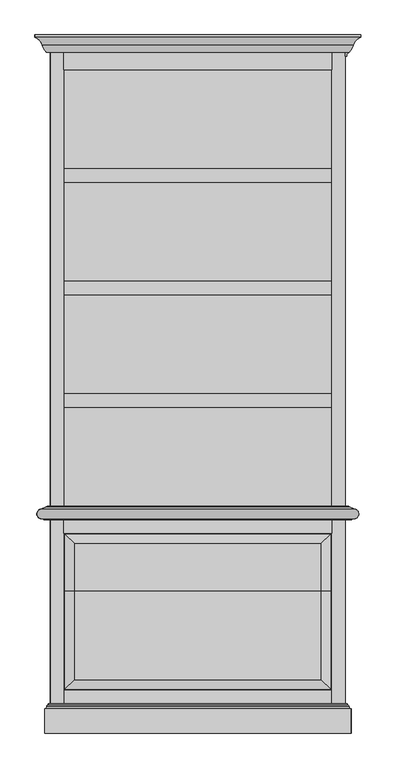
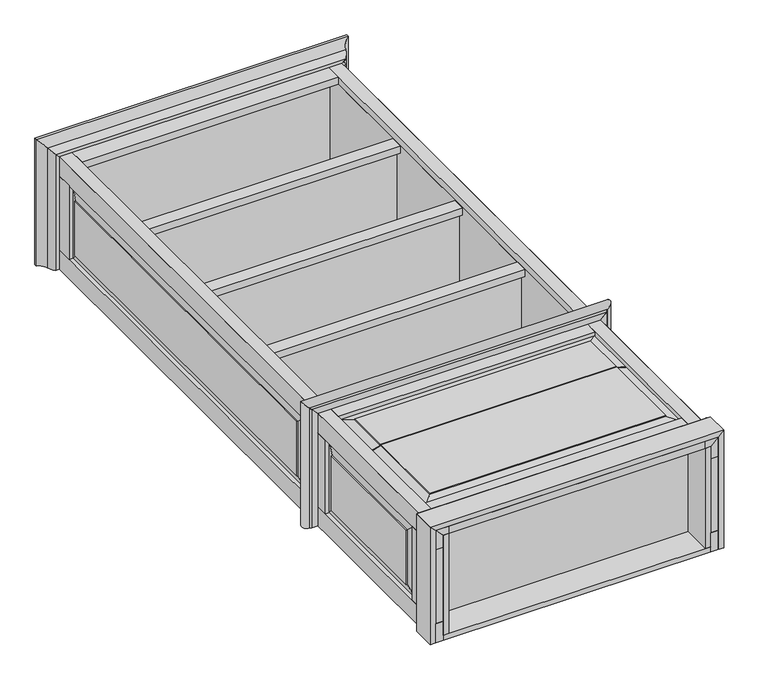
"""IFC4 building model written with IfcOpenShell, lengths in millimetres: proxy geometry, CAMBRIDGE^STORAGE 2_2 DRAWERS 3 SHELVES-PARTS SOLID."""

from ifc_helpers import new_model, si_unit, frame, origin, origin_with_axes, place, context, project, spatial, polyline, circle_curve, ellipse_curve, outline, extrude, faceted_brep, source, transform, mapped, element, save
from ifc_brep_helpers import plane_surface, cylinder_surface, revolved_surface, advanced_brep


def generic_models_470a9173(model_context):
    return source(origin(), model_context, "Body", "SolidModel", [
        faceted_brep([(22.225, 466.725, 387.35), (892.175, 466.725, 387.35), (892.175, 466.725, 394.7176131), (860.425, 466.725, 403.225), (860.425, 466.725, 406.4), (53.975, 466.725, 406.4), (53.975, 466.725, 403.225), (22.225, 466.725, 394.7176131), (22.225, 650.875, 387.35), (892.175, 650.875, 387.35), (892.175, 650.875, 394.7176131), (860.425, 619.125, 403.225), (860.425, 619.125, 406.4), (53.975, 619.125, 406.4), (53.975, 619.125, 403.225), (22.225, 650.875, 394.7176131)], [[[0, 1, 2, 3, 4, 5, 6, 7]], [[1, 0, 8, 9]], [[2, 1, 9, 10]], [[3, 2, 10, 11]], [[4, 3, 11, 12]], [[5, 4, 12, 13]], [[6, 5, 13, 14]], [[7, 6, 14, 15]], [[0, 7, 15, 8]], [[15, 10, 9, 8]], [[10, 15, 14, 11]], [[11, 14, 13, 12]]]),
        extrude(outline(polyline([(893.7625, 1822.45), (20.6375, 1822.45), (20.6375, 1847.85), (893.7625, 1847.85), (893.7625, 1822.45)])), frame((0.0, 0.0, 19.05), z_axis=(0.0, 0.0, 1.0), x_axis=(1.0, 0.0, 0.0)), (0.0, 0.0, 1.0), 336.55),
        advanced_brep(
        [(965.1440118, 2286.0, 431.7440118), (939.8, 2249.805, 406.4), (-25.4, 2249.805, 406.4), (-50.7440118, 2286.0, 431.7440118), (-38.4061695, 2228.85, 419.4061695), (952.8061695, 2228.85, 419.4061695), (966.5133719, 2252.0938145, 433.1133719), (-52.1133719, 2252.0938145, 433.1133719), (990.6, 2278.0752, 457.2), (-76.2, 2278.0752, 457.2), (939.8, 2228.85, 406.4), (-25.4, 2228.85, 406.4), (-76.2, 2286.0, 457.2), (990.6, 2286.0, 457.2)],
        [
            (0, 1),
            (1, 2),
            (2, 3),
            (3, 0),
            (4, 5),
            (5, 6, ellipse_curve(frame((917.4734, 2265.3498, 384.0734), z_axis=(-0.7071067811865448, 0.0, 0.7071067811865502), x_axis=(-0.7071067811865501, 0.0, -0.7071067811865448)), 71.842049, 50.8)),
            (6, 7),
            (7, 4, ellipse_curve(frame((-3.0734, 2265.3498, 384.0734), z_axis=(0.7071067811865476, 0.0, 0.7071067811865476), x_axis=(-0.7071067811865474, 0.0, 0.7071067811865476)), 71.842049, 50.8)),
            (6, 8, ellipse_curve(frame((1003.2933509, 2242.1518254, 469.8933509), z_axis=(0.7071067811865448, 0.0, -0.7071067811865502), x_axis=(-0.7071067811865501, 0.0, -0.7071067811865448)), 53.8815367, 38.1)),
            (8, 9),
            (9, 7, ellipse_curve(frame((-88.8933509, 2242.1518254, 469.8933509), z_axis=(-0.7071067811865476, 0.0, -0.7071067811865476), x_axis=(-0.7071067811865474, 0.0, 0.7071067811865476)), 53.8815367, 38.1)),
            (1, 10),
            (10, 11),
            (11, 2),
            (11, 4),
            (9, 12),
            (12, 3),
            (10, 5),
            (8, 13),
            (13, 12),
            (0, 13),
        ],
        [
            plane_surface(frame((939.8, 2249.805, 406.4), z_axis=(0.0, 0.5735764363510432, -0.8191520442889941), x_axis=(0.4975428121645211, 0.7105647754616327, 0.497542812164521))),
            cylinder_surface(frame((917.4734, 2265.3498, 384.0734), z_axis=(-1.0, 0.0, 0.0), x_axis=(0.0, 0.0, -1.0)), 50.8),
            revolved_surface(polyline([(-126.99335088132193, 2242.1518254, 431.79335089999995), (1041.393350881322, 2242.1518254, 431.79335089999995)]), (1003.2933509, 2242.1518254, 469.8933509), (-1.0, 0.0, 0.0)),
            plane_surface(frame((939.8, 2241.55, 406.4), z_axis=(0.0, 0.0, -1.0), x_axis=(-1.0, 0.0, 0.0))),
            plane_surface(frame((-25.4, 2241.55, 406.4), z_axis=(-0.7071067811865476, 0.0, -0.7071067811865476), x_axis=(-0.7071067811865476, 0.0, 0.7071067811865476))),
            plane_surface(frame((457.2, 2228.85, 431.8), z_axis=(0.0, -1.0, 0.0), x_axis=(0.0, 0.0, -1.0))),
            plane_surface(frame((-76.2, 2241.55, 457.2), z_axis=(0.0, 0.0, 1.0), x_axis=(1.0, 0.0, 0.0))),
            plane_surface(frame((990.6, 2241.55, 457.2), z_axis=(0.7071067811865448, 0.0, -0.7071067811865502), x_axis=(-0.7071067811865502, 0.0, -0.7071067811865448))),
            plane_surface(frame((457.2, 2286.0, 431.8), z_axis=(0.0, 1.0, 0.0), x_axis=(0.0, 0.0, 1.0))),
        ],
        [
            (0, [[1, 2, 3, 4]]),
            (1, [[5, 6, 7, 8]]),
            (2, [[9, 10, 11, -7]]),
            (3, [[-2, 12, 13, 14]]),
            (4, [[-3, -14, 15, -8, -11, 16, 17]]),
            (5, [[-5, -15, -13, 18]]),
            (6, [[-10, 19, 20, -16]]),
            (7, [[-1, 21, -19, -9, -6, -18, -12]]),
            (8, [[-4, -17, -20, -21]]),
        ],
    ),
        advanced_brep(
        [(-52.8410714, 701.6587803, 433.8410714), (-53.975, 733.3682311, 434.975), (-53.975, 733.3682311, 0.0), (-52.8410714, 701.6587803, 0.0), (-53.975, 734.9557311, 434.975), (-53.975, 734.9557311, 0.0), (-39.1031721, 740.3686338, 420.1031721), (-39.1031721, 740.3686338, 0.0), (-35.9028814, 742.95, 416.9028814), (-35.9028814, 742.95, 0.0), (-46.8882387, 698.5, 427.8882387), (-46.8882387, 698.5, 0.0), (-25.4, 698.5, 406.4), (-25.4, 742.95, 406.4), (-25.4, 742.95, 0.0), (-25.4, 698.5, 0.0)],
        [
            (0, 1, ellipse_curve(frame((-53.975, 717.4932311, 434.975), z_axis=(-0.7071067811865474, 0.0, -0.7071067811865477), x_axis=(0.7071067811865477, 0.0, -0.7071067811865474)), 22.4506403, 15.875)),
            (1, 2),
            (2, 3, circle_curve(frame((-53.975, 717.4932311, 0.0), z_axis=(0.0, 0.0, 1.0), x_axis=(-1.0, 0.0, 0.0)), 15.875)),
            (3, 0),
            (1, 4),
            (4, 5),
            (5, 2),
            (4, 6),
            (6, 7),
            (7, 5),
            (6, 8, ellipse_curve(frame((-41.275, 746.3356819, 422.275), z_axis=(0.7071067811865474, 0.0, 0.7071067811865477), x_axis=(0.7071067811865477, 0.0, -0.7071067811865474)), 8.9802561, 6.35)),
            (8, 9),
            (9, 7, circle_curve(frame((-41.275, 746.3356819, 0.0), z_axis=(0.0, 0.0, -1.0), x_axis=(1.0, 0.0, 0.0)), 6.35)),
            (10, 0, ellipse_curve(frame((-52.3875, 695.325, 433.3875), z_axis=(0.7071067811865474, 0.0, 0.7071067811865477), x_axis=(0.7071067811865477, 0.0, -0.7071067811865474)), 8.9802561, 6.35)),
            (3, 11, circle_curve(frame((-52.3875, 695.325, 0.0), z_axis=(0.0, 0.0, -1.0), x_axis=(1.0, 0.0, 0.0)), 6.35)),
            (11, 10),
            (10, 12),
            (12, 13),
            (13, 8),
            (13, 14),
            (14, 9),
            (12, 15),
            (15, 14),
            (11, 15),
        ],
        [
            cylinder_surface(frame((-53.975, 717.4932311, 434.975), z_axis=(0.0, 0.0, -1.0), x_axis=(-1.0, 0.0, 0.0)), 15.875),
            plane_surface(frame((-53.975, 734.9557311, 434.975), z_axis=(-1.0, 0.0, 0.0), x_axis=(0.0, -1.0, 0.0))),
            plane_surface(frame((-39.1031721, 740.3686338, 420.1031721), z_axis=(-0.34202014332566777, 0.9396926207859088, 0.0), x_axis=(-0.6847910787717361, -0.24924356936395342, 0.6847910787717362))),
            revolved_surface(polyline([(-34.925, 746.3356819, 0.0), (-34.925, 746.3356819, 428.62499998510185)]), (-41.275, 746.3356819, 422.275), (0.0, 0.0, -1.0)),
            revolved_surface(polyline([(-46.0375, 695.325, 0.0), (-46.0375, 695.325, 439.73749998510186)]), (-52.3875, 695.325, 433.3875), (0.0, 0.0, -1.0)),
            plane_surface(frame((-47.625, 720.725, 428.625), z_axis=(0.7071067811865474, 0.0, 0.7071067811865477), x_axis=(-0.7071067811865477, 0.0, 0.7071067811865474))),
            plane_surface(frame((-25.4, 742.95, 0.0), z_axis=(0.0, 1.0, 0.0), x_axis=(-1.0, 0.0, 0.0))),
            plane_surface(frame((-25.4, 698.5, 0.0), z_axis=(1.0, 0.0, 0.0), x_axis=(0.0, 1.0, 0.0))),
            plane_surface(frame((-69.85, 698.5, 0.0), z_axis=(0.0, -1.0, 0.0), x_axis=(1.0, 0.0, 0.0))),
            plane_surface(frame((-47.625, 720.725, 0.0), z_axis=(0.0, 0.0, -1.0), x_axis=(-1.0, 0.0, 0.0))),
        ],
        [
            (0, [[1, 2, 3, 4]]),
            (1, [[5, 6, 7, -2]]),
            (2, [[8, 9, 10, -6]]),
            (3, [[11, 12, 13, -9]]),
            (4, [[14, -4, 15, 16]]),
            (5, [[-11, -8, -5, -1, -14, 17, 18, 19]]),
            (6, [[-12, -19, 20, 21]]),
            (7, [[-18, 22, 23, -20]]),
            (8, [[-16, 24, -22, -17]]),
            (9, [[-13, -21, -23, -24, -15, -3, -7, -10]]),
        ],
    ),
        advanced_brep(
        [(958.85, 79.375, 425.45), (952.5, 85.725, 419.1), (-38.1, 85.725, 419.1), (-44.45, 79.375, 425.45), (946.15, 92.075, 412.75), (-31.75, 92.075, 412.75), (946.15, 95.25, 412.75), (-31.75, 95.25, 412.75), (939.8, 95.25, 406.4), (-25.4, 95.25, 406.4), (958.85, 0.0, 425.45), (939.8, 0.0, 406.4), (-44.45, 0.0, 425.45), (-25.4, 0.0, 406.4)],
        [
            (0, 1, ellipse_curve(frame((958.85, 85.725, 425.45), z_axis=(0.7071067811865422, 0.0, -0.7071067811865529), x_axis=(-0.7071067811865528, 0.0, -0.7071067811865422)), 8.9802561, 6.35)),
            (1, 2),
            (2, 3, ellipse_curve(frame((-44.45, 85.725, 425.45), z_axis=(-0.7071067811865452, 0.0, -0.7071067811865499), x_axis=(-0.7071067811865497, 0.0, 0.7071067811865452)), 8.9802561, 6.35)),
            (3, 0),
            (1, 4, ellipse_curve(frame((946.15, 85.725, 412.75), z_axis=(-0.7071067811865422, 0.0, 0.7071067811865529), x_axis=(-0.7071067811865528, 0.0, -0.7071067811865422)), 8.9802561, 6.35)),
            (4, 5),
            (5, 2, ellipse_curve(frame((-31.75, 85.725, 412.75), z_axis=(0.7071067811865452, 0.0, 0.7071067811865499), x_axis=(-0.7071067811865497, 0.0, 0.7071067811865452)), 8.9802561, 6.35)),
            (4, 6),
            (6, 7),
            (7, 5),
            (6, 8),
            (8, 9),
            (9, 7),
            (0, 10),
            (10, 11),
            (11, 8),
            (3, 12),
            (12, 10),
            (9, 13),
            (13, 12),
            (11, 13),
        ],
        [
            revolved_surface(polyline([(-50.79999998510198, 85.725, 431.8), (965.199999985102, 85.725, 431.8)]), (958.85, 85.725, 425.45), (-1.0, 0.0, 0.0)),
            cylinder_surface(frame((946.15, 85.725, 412.75), z_axis=(-1.0, 0.0, 0.0), x_axis=(0.0, 0.0, 1.0)), 6.35),
            plane_surface(frame((946.15, 95.25, 412.75), z_axis=(0.0, 0.0, 1.0), x_axis=(0.0, -1.0, 0.0))),
            plane_surface(frame((457.2, 95.25, 415.925), z_axis=(0.0, 1.0, 0.0), x_axis=(0.0, 0.0, 1.0))),
            plane_surface(frame((958.85, 0.0, 425.45), z_axis=(0.7071067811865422, 0.0, -0.7071067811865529), x_axis=(-0.7071067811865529, 0.0, -0.7071067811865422))),
            plane_surface(frame((-44.45, 0.0, 425.45), z_axis=(0.0, 0.0, 1.0), x_axis=(1.0, 0.0, 0.0))),
            plane_surface(frame((-25.4, 0.0, 406.4), z_axis=(-0.7071067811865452, 0.0, -0.7071067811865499), x_axis=(-0.7071067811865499, 0.0, 0.7071067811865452))),
            plane_surface(frame((939.8, 0.0, 406.4), z_axis=(0.0, 0.0, -1.0), x_axis=(-1.0, 0.0, 0.0))),
            plane_surface(frame((457.2, 0.0, 415.925), z_axis=(0.0, -1.0, 0.0), x_axis=(0.0, 0.0, -1.0))),
        ],
        [
            (0, [[1, 2, 3, 4]]),
            (1, [[5, 6, 7, -2]]),
            (2, [[8, 9, 10, -6]]),
            (3, [[-9, 11, 12, 13]]),
            (4, [[-8, -5, -1, 14, 15, 16, -11]]),
            (5, [[-4, 17, 18, -14]]),
            (6, [[-10, -13, 19, 20, -17, -3, -7]]),
            (7, [[21, -19, -12, -16]]),
            (8, [[-15, -18, -20, -21]]),
        ],
    ),
        extrude(outline(polyline([(893.7625, 1803.4), (20.6375, 1803.4), (20.6375, 1847.85), (893.7625, 1847.85), (893.7625, 1803.4)])), frame((0.0, 0.0, 355.6), z_axis=(0.0, 0.0, 1.0), x_axis=(1.0, 0.0, 0.0)), (0.0, 0.0, 1.0), 25.4),
        advanced_brep(
        [(958.85, 79.375, 0.0), (952.5, 85.725, 0.0), (952.5, 85.725, 419.1), (958.85, 79.375, 425.45), (946.15, 92.075, 0.0), (946.15, 92.075, 412.75), (946.15, 95.25, 0.0), (946.15, 95.25, 412.75), (939.8, 95.25, 406.4), (939.8, 0.0, 406.4), (958.85, 0.0, 425.45), (939.8, 95.25, 0.0), (939.8, 0.0, 0.0), (958.85, 0.0, 0.0)],
        [
            (0, 1, circle_curve(frame((958.85, 85.725, 0.0), z_axis=(0.0, 0.0, -1.0), x_axis=(0.0, -1.0, 0.0)), 6.35)),
            (1, 2),
            (2, 3, ellipse_curve(frame((958.85, 85.725, 425.45), z_axis=(-0.7071067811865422, 0.0, 0.7071067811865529), x_axis=(0.7071067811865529, 0.0, 0.7071067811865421)), 8.9802561, 6.35)),
            (3, 0),
            (1, 4, circle_curve(frame((946.15, 85.725, 0.0), z_axis=(0.0, 0.0, 1.0), x_axis=(0.0, -1.0, 0.0)), 6.35)),
            (4, 5),
            (5, 2, ellipse_curve(frame((946.15, 85.725, 412.75), z_axis=(0.7071067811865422, 0.0, -0.7071067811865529), x_axis=(0.7071067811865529, 0.0, 0.7071067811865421)), 8.9802561, 6.35)),
            (4, 6),
            (6, 7),
            (7, 5),
            (7, 8),
            (8, 9),
            (9, 10),
            (10, 3),
            (6, 11),
            (11, 8),
            (12, 9),
            (11, 12),
            (0, 13),
            (13, 12),
            (10, 13),
        ],
        [
            revolved_surface(polyline([(958.85, 79.375, 431.7999999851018), (958.85, 79.375, 0.0)]), (958.85, 85.725, 0.0), (0.0, 0.0, 1.0)),
            cylinder_surface(frame((946.15, 85.725, 0.0), z_axis=(0.0, 0.0, 1.0), x_axis=(0.0, -1.0, 0.0)), 6.35),
            plane_surface(frame((946.15, 95.25, 0.0), z_axis=(1.0, 0.0, 0.0), x_axis=(0.0, -1.0, 0.0))),
            plane_surface(frame((939.8, 0.0, 406.4), z_axis=(-0.7071067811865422, 0.0, 0.7071067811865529), x_axis=(0.7071067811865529, 0.0, 0.7071067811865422))),
            plane_surface(frame((949.325, 95.25, 212.725), z_axis=(0.0, 1.0, 0.0), x_axis=(0.0, 0.0, 1.0))),
            plane_surface(frame((939.8, 0.0, 0.0), z_axis=(-1.0, 0.0, 0.0), x_axis=(0.0, 0.0, 1.0))),
            plane_surface(frame((958.85, 0.0, 0.0), z_axis=(0.0, 0.0, -1.0), x_axis=(-1.0, 0.0, 0.0))),
            plane_surface(frame((958.85, 0.0, 425.45), z_axis=(1.0, 0.0, 0.0), x_axis=(0.0, 0.0, -1.0))),
            plane_surface(frame((949.325, 0.0, 212.725), z_axis=(0.0, -1.0, 0.0), x_axis=(0.0, 0.0, -1.0))),
        ],
        [
            (0, [[1, 2, 3, 4]]),
            (1, [[5, 6, 7, -2]]),
            (2, [[8, 9, 10, -6]]),
            (3, [[-3, -7, -10, 11, 12, 13, 14]]),
            (4, [[-9, 15, 16, -11]]),
            (5, [[17, -12, -16, 18]]),
            (6, [[-1, 19, 20, -18, -15, -8, -5]]),
            (7, [[-4, -14, 21, -19]]),
            (8, [[-21, -13, -17, -20]]),
        ],
    ),
        extrude(outline(polyline([(895.35, 742.95), (895.35, 711.2), (19.05, 711.2), (19.05, 742.95), (895.35, 742.95)])), frame((0.0, 0.0, 19.05), z_axis=(0.0, 0.0, 1.0), x_axis=(1.0, 0.0, 0.0)), (0.0, 0.0, 1.0), 387.35),
        extrude(outline(polyline([(0.0, 2241.55), (0.0, 2171.7), (-25.4, 2171.7), (-25.4, 2241.55), (0.0, 2241.55)])), frame((0.0, 0.0, 69.85), z_axis=(0.0, 0.0, 1.0), x_axis=(1.0, 0.0, 0.0)), (0.0, 0.0, 1.0), 266.7),
        extrude(outline(polyline([(893.7625, 1435.1), (20.6375, 1435.1), (20.6375, 1479.55), (893.7625, 1479.55), (893.7625, 1435.1)])), frame((0.0, 0.0, 355.6), z_axis=(0.0, 0.0, 1.0), x_axis=(1.0, 0.0, 0.0)), (0.0, 0.0, 1.0), 25.4),
        extrude(outline(polyline([(914.4, 2171.7), (914.4, 2241.55), (939.8, 2241.55), (939.8, 2171.7), (914.4, 2171.7)])), frame((0.0, 0.0, 69.85), z_axis=(0.0, 0.0, 1.0), x_axis=(1.0, 0.0, 0.0)), (0.0, 0.0, 1.0), 266.7),
        extrude(outline(polyline([(914.4, 0.0), (914.4, 2241.55), (939.8, 2241.55), (939.8, 0.0), (914.4, 0.0)])), origin_with_axes(), (0.0, 0.0, 1.0), 69.85),
        advanced_brep(
        [(965.1440118, 2286.0, 0.0), (939.8, 2249.805, 0.0), (939.8, 2249.805, 406.4), (965.1440118, 2286.0, 431.7440118), (945.3626, 2216.15, 0.0), (945.3626, 2222.8900246, 0.0), (945.3626, 2222.8900246, 411.9626), (945.3626, 2216.15, 411.9626), (966.5133719, 2252.0938145, 0.0), (966.5133719, 2252.0938145, 433.1133719), (990.6, 2278.0752, 0.0), (990.6, 2278.0752, 457.2), (939.8, 2216.15, 0.0), (939.8, 2216.15, 406.4), (990.6, 2286.0, 457.2), (990.6, 2286.0, 0.0)],
        [
            (0, 1),
            (1, 2),
            (2, 3),
            (3, 0),
            (4, 5),
            (5, 6),
            (6, 7),
            (7, 4),
            (5, 8, circle_curve(frame((917.4734, 2265.3498, 0.0), z_axis=(0.0, 0.0, 1.0), x_axis=(-0.9653537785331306, 0.26094459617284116, 0.0)), 50.8)),
            (8, 9),
            (9, 6, ellipse_curve(frame((917.4734, 2265.3498, 384.0734), z_axis=(0.7071067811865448, 0.0, -0.7071067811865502), x_axis=(0.7071067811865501, 0.0, 0.7071067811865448)), 71.842049, 50.8)),
            (8, 10, circle_curve(frame((1003.2933509, 2242.1518254, 0.0), z_axis=(0.0, 0.0, -1.0), x_axis=(-0.9653537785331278, 0.2609445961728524, 0.0)), 38.1)),
            (10, 11),
            (11, 9, ellipse_curve(frame((1003.2933509, 2242.1518254, 469.8933509), z_axis=(-0.7071067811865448, 0.0, 0.7071067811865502), x_axis=(0.7071067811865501, 0.0, 0.7071067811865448)), 53.8815367, 38.1)),
            (1, 12),
            (12, 13),
            (13, 2),
            (13, 7),
            (11, 14),
            (14, 3),
            (12, 4),
            (0, 15),
            (15, 10),
            (15, 14),
        ],
        [
            plane_surface(frame((939.8, 2249.805, 0.0), z_axis=(-0.819152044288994, 0.573576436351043, 0.0), x_axis=(0.573576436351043, 0.819152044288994, 0.0))),
            plane_surface(frame((945.3626, 2222.8900246, 0.0), z_axis=(1.0, 0.0, 0.0), x_axis=(0.0, -1.0, 0.0))),
            cylinder_surface(frame((917.4734, 2265.3498, 0.0), z_axis=(0.0, 0.0, 0.9999999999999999), x_axis=(-0.9653537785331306, 0.26094459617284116, 0.0)), 50.8),
            revolved_surface(polyline([(966.5133719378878, 2252.0938145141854, 507.99335088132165), (966.5133719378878, 2252.0938145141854, 0.0)]), (1003.2933509, 2242.1518254, 0.0), (0.0, 0.0, 1.0)),
            plane_surface(frame((939.8, 2241.55, 0.0), z_axis=(-1.0, 0.0, 0.0), x_axis=(0.0, 0.0, 1.0))),
            plane_surface(frame((939.8, 2241.55, 406.4), z_axis=(-0.7071067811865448, 0.0, 0.7071067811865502), x_axis=(0.7071067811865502, 0.0, 0.7071067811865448))),
            plane_surface(frame((965.2, 2216.15, 228.6), z_axis=(0.0, -1.0, 0.0), x_axis=(0.0, 0.0, -1.0))),
            plane_surface(frame((990.6, 2241.55, 0.0), z_axis=(0.0, 0.0, -1.0), x_axis=(-1.0, 0.0, 0.0))),
            plane_surface(frame((990.6, 2241.55, 457.2), z_axis=(1.0, 0.0, 0.0), x_axis=(0.0, 0.0, -1.0))),
            plane_surface(frame((965.2, 2286.0, 228.6), z_axis=(0.0, 1.0, 0.0), x_axis=(0.0, 0.0, 1.0))),
        ],
        [
            (0, [[1, 2, 3, 4]]),
            (1, [[5, 6, 7, 8]]),
            (2, [[9, 10, 11, -6]]),
            (3, [[12, 13, 14, -10]]),
            (4, [[-2, 15, 16, 17]]),
            (5, [[-3, -17, 18, -7, -11, -14, 19, 20]]),
            (6, [[-8, -18, -16, 21]]),
            (7, [[-1, 22, 23, -12, -9, -5, -21, -15]]),
            (8, [[-13, -23, 24, -19]]),
            (9, [[-4, -20, -24, -22]]),
        ],
    ),
        advanced_brep(
        [(967.2410714, 701.6587803, 433.8410714), (968.375, 733.3682311, 434.975), (-53.975, 733.3682311, 434.975), (-52.8410714, 701.6587803, 433.8410714), (968.375, 734.9557311, 434.975), (-53.975, 734.9557311, 434.975), (953.5031721, 740.3686338, 420.1031721), (-39.1031721, 740.3686338, 420.1031721), (950.3028814, 742.95, 416.9028814), (-35.9028814, 742.95, 416.9028814), (961.2882387, 698.5, 427.8882387), (-46.8882387, 698.5, 427.8882387), (939.8, 698.5, 406.4), (939.8, 742.95, 406.4), (-25.4, 698.5, 406.4), (-25.4, 742.95, 406.4)],
        [
            (0, 1, ellipse_curve(frame((968.375, 717.4932311, 434.975), z_axis=(-0.7071067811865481, 0.0, 0.707106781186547), x_axis=(-0.7071067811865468, 0.0, -0.7071067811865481)), 22.4506403, 15.875)),
            (1, 2),
            (2, 3, ellipse_curve(frame((-53.975, 717.4932311, 434.975), z_axis=(0.7071067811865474, 0.0, 0.7071067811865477), x_axis=(-0.7071067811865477, 0.0, 0.7071067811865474)), 22.4506403, 15.875)),
            (3, 0),
            (1, 4),
            (4, 5),
            (5, 2),
            (4, 6),
            (6, 7),
            (7, 5),
            (6, 8, ellipse_curve(frame((955.675, 746.3356819, 422.275), z_axis=(0.7071067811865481, 0.0, -0.707106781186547), x_axis=(-0.7071067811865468, 0.0, -0.7071067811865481)), 8.9802561, 6.35)),
            (8, 9),
            (9, 7, ellipse_curve(frame((-41.275, 746.3356819, 422.275), z_axis=(-0.7071067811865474, 0.0, -0.7071067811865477), x_axis=(-0.7071067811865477, 0.0, 0.7071067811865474)), 8.9802561, 6.35)),
            (10, 0, ellipse_curve(frame((966.7875, 695.325, 433.3875), z_axis=(0.7071067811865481, 0.0, -0.707106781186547), x_axis=(-0.7071067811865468, 0.0, -0.7071067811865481)), 8.9802561, 6.35)),
            (3, 11, ellipse_curve(frame((-52.3875, 695.325, 433.3875), z_axis=(-0.7071067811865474, 0.0, -0.7071067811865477), x_axis=(-0.7071067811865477, 0.0, 0.7071067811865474)), 8.9802561, 6.35)),
            (11, 10),
            (10, 12),
            (12, 13),
            (13, 8),
            (11, 14),
            (14, 12),
            (9, 15),
            (15, 14),
            (15, 13),
        ],
        [
            cylinder_surface(frame((968.375, 717.4932311, 434.975), z_axis=(-1.0, 0.0, 0.0), x_axis=(0.0, 0.0, 1.0)), 15.875),
            plane_surface(frame((968.375, 734.9557311, 434.975), z_axis=(0.0, 0.0, 1.0), x_axis=(0.0, -1.0, 0.0))),
            plane_surface(frame((953.5031721, 740.3686338, 420.1031721), z_axis=(0.0, 0.9396926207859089, 0.34202014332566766), x_axis=(0.6847910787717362, -0.24924356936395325, 0.6847910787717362))),
            revolved_surface(polyline([(-47.624999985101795, 746.3356819, 415.92499999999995), (962.0249999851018, 746.3356819, 415.92499999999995)]), (955.675, 746.3356819, 422.275), (-1.0, 0.0, 0.0)),
            revolved_surface(polyline([(-58.73749998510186, 695.325, 427.03749999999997), (973.1374999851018, 695.325, 427.03749999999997)]), (966.7875, 695.325, 433.3875), (-1.0, 0.0, 0.0)),
            plane_surface(frame((962.025, 720.725, 428.625), z_axis=(0.7071067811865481, 0.0, -0.707106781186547), x_axis=(-0.707106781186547, 0.0, -0.7071067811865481))),
            plane_surface(frame((-25.4, 698.5, 406.4), z_axis=(0.0, -1.0, 0.0), x_axis=(1.0, 0.0, 0.0))),
            plane_surface(frame((-47.625, 720.725, 428.625), z_axis=(-0.7071067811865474, 0.0, -0.7071067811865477), x_axis=(-0.7071067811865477, 0.0, 0.7071067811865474))),
            plane_surface(frame((457.2, 720.725, 406.4), z_axis=(0.0, 0.0, -1.0), x_axis=(1.0, 0.0, 0.0))),
            plane_surface(frame((939.8, 742.95, 406.4), z_axis=(0.0, 1.0, 0.0), x_axis=(-1.0, 0.0, 0.0))),
        ],
        [
            (0, [[1, 2, 3, 4]]),
            (1, [[5, 6, 7, -2]]),
            (2, [[8, 9, 10, -6]]),
            (3, [[11, 12, 13, -9]]),
            (4, [[14, -4, 15, 16]]),
            (5, [[-11, -8, -5, -1, -14, 17, 18, 19]]),
            (6, [[-16, 20, 21, -17]]),
            (7, [[-13, 22, 23, -20, -15, -3, -7, -10]]),
            (8, [[-23, 24, -18, -21]]),
            (9, [[-12, -19, -24, -22]]),
        ],
    ),
        extrude(outline(polyline([(0.0, 2222.5), (19.05, 2222.5), (19.05, 0.0), (0.0, 0.0), (0.0, 2222.5)])), frame((0.0, 0.0, 19.05), z_axis=(0.0, 0.0, 1.0), x_axis=(1.0, 0.0, 0.0)), (0.0, 0.0, 1.0), 361.95),
        extrude(outline(polyline([(914.4, 654.05), (914.4, 787.4), (939.8, 787.4), (939.8, 654.05), (914.4, 654.05)])), frame((0.0, 0.0, 69.85), z_axis=(0.0, 0.0, 1.0), x_axis=(1.0, 0.0, 0.0)), (0.0, 0.0, 1.0), 266.7),
        extrude(outline(polyline([(895.35, 2222.5), (914.4, 2222.5), (914.4, 0.0), (895.35, 0.0), (895.35, 2222.5)])), frame((0.0, 0.0, 19.05), z_axis=(0.0, 0.0, 1.0), x_axis=(1.0, 0.0, 0.0)), (0.0, 0.0, 1.0), 361.95),
        faceted_brep([(-22.225, 174.625, 104.775), (-25.4, 174.625, 104.775), (-25.4, 619.125, 104.775), (-22.225, 619.125, 104.775), (-13.7176131, 142.875, 73.025), (-13.7176131, 650.875, 73.025), (-6.35, 142.875, 73.025), (-6.35, 650.875, 73.025), (-22.225, 174.625, 301.625), (-25.4, 174.625, 301.625), (-13.7176131, 142.875, 333.375), (-6.35, 142.875, 333.375), (-6.35, 654.05, 336.55), (-6.35, 654.05, 69.85), (-6.35, 139.7, 69.85), (-6.35, 139.7, 336.55), (-6.35, 650.875, 333.375), (-22.225, 619.125, 301.625), (-25.4, 619.125, 301.625), (-13.7176131, 650.875, 333.375), (0.0, 654.05, 69.85), (0.0, 139.7, 69.85), (0.0, 139.7, 336.55), (0.0, 654.05, 336.55)], [[[0, 1, 2, 3]], [[4, 0, 3, 5]], [[6, 4, 5, 7]], [[8, 9, 1, 0]], [[10, 8, 0, 4]], [[11, 10, 4, 6]], [[12, 13, 14, 15], [16, 11, 6, 7]], [[17, 18, 9, 8]], [[19, 17, 8, 10]], [[16, 19, 10, 11]], [[3, 2, 18, 17]], [[5, 3, 17, 19]], [[7, 5, 19, 16]], [[14, 13, 20, 21]], [[15, 14, 21, 22]], [[12, 15, 22, 23]], [[13, 12, 23, 20]], [[2, 1, 9, 18]], [[22, 21, 20, 23]]]),
        extrude(outline(polyline([(895.35, 2241.55), (895.35, 2171.7), (19.05, 2171.7), (19.05, 2241.55), (895.35, 2241.55)])), frame((0.0, 0.0, 381.0), z_axis=(0.0, 0.0, 1.0), x_axis=(1.0, 0.0, 0.0)), (0.0, 0.0, 1.0), 25.4),
        extrude(outline(polyline([(0.0, 787.4), (0.0, 654.05), (-25.4, 654.05), (-25.4, 787.4), (0.0, 787.4)])), frame((0.0, 0.0, 69.85), z_axis=(0.0, 0.0, 1.0), x_axis=(1.0, 0.0, 0.0)), (0.0, 0.0, 1.0), 266.7),
        extrude(outline(polyline([(0.0, 2241.55), (914.4, 2241.55), (914.4, 2222.5), (0.0, 2222.5), (0.0, 2241.55)])), frame((0.0, 0.0, 19.05), z_axis=(0.0, 0.0, 1.0), x_axis=(1.0, 0.0, 0.0)), (0.0, 0.0, 1.0), 361.95),
        advanced_brep(
        [(967.2410714, 701.6587803, 0.0), (968.375, 733.3682311, 0.0), (968.375, 733.3682311, 434.975), (967.2410714, 701.6587803, 433.8410714), (968.375, 734.9557311, 0.0), (968.375, 734.9557311, 434.975), (953.5031721, 740.3686338, 0.0), (953.5031721, 740.3686338, 420.1031721), (950.3028814, 742.95, 0.0), (950.3028814, 742.95, 416.9028814), (961.2882387, 698.5, 0.0), (961.2882387, 698.5, 427.8882387), (939.8, 698.5, 0.0), (939.8, 742.95, 0.0), (939.8, 698.5, 406.4), (939.8, 742.95, 406.4)],
        [
            (0, 1, circle_curve(frame((968.375, 717.4932311, 0.0), z_axis=(0.0, 0.0, 1.0), x_axis=(0.0, -1.0, 0.0)), 15.875)),
            (1, 2),
            (2, 3, ellipse_curve(frame((968.375, 717.4932311, 434.975), z_axis=(0.7071067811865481, 0.0, -0.707106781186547), x_axis=(0.707106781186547, 0.0, 0.7071067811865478)), 22.4506403, 15.875)),
            (3, 0),
            (1, 4),
            (4, 5),
            (5, 2),
            (4, 6),
            (6, 7),
            (7, 5),
            (6, 8, circle_curve(frame((955.675, 746.3356819, 0.0), z_axis=(0.0, 0.0, -1.0), x_axis=(-0.34202014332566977, -0.939692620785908, 0.0)), 6.35)),
            (8, 9),
            (9, 7, ellipse_curve(frame((955.675, 746.3356819, 422.275), z_axis=(-0.7071067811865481, 0.0, 0.707106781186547), x_axis=(0.707106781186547, 0.0, 0.7071067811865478)), 8.9802561, 6.35)),
            (10, 0, circle_curve(frame((966.7875, 695.325, 0.0), z_axis=(0.0, 0.0, -1.0), x_axis=(-0.8660254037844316, 0.5000000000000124, 0.0)), 6.35)),
            (3, 11, ellipse_curve(frame((966.7875, 695.325, 433.3875), z_axis=(-0.7071067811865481, 0.0, 0.707106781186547), x_axis=(0.707106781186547, 0.0, 0.7071067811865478)), 8.9802561, 6.35)),
            (11, 10),
            (10, 12),
            (12, 13),
            (13, 8),
            (11, 14),
            (14, 12),
            (14, 15),
            (15, 13),
            (15, 9),
        ],
        [
            cylinder_surface(frame((968.375, 717.4932311, 0.0), z_axis=(0.0, 0.0, 1.0), x_axis=(0.0, -1.0, 0.0)), 15.875),
            plane_surface(frame((968.375, 734.9557311, 0.0), z_axis=(1.0, 0.0, 0.0), x_axis=(0.0, -1.0, 0.0))),
            plane_surface(frame((953.5031721, 740.3686338, 0.0), z_axis=(0.34202014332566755, 0.9396926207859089, 0.0), x_axis=(0.9396926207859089, -0.34202014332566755, 0.0))),
            revolved_surface(polyline([(953.5031720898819, 740.3686337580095, 428.62499998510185), (953.5031720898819, 740.3686337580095, 0.0)]), (955.675, 746.3356819, 0.0), (0.0, 0.0, 1.0)),
            revolved_surface(polyline([(961.2882386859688, 698.5000000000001, 439.7374999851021), (961.2882386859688, 698.5000000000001, 0.0)]), (966.7875, 695.325, 0.0), (0.0, 0.0, 1.0000000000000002)),
            plane_surface(frame((962.025, 720.725, 0.0), z_axis=(0.0, 0.0, -1.0), x_axis=(-1.0, 0.0, 0.0))),
            plane_surface(frame((939.8, 698.5, 0.0), z_axis=(0.0, -1.0, 0.0), x_axis=(1.0, 0.0, 0.0))),
            plane_surface(frame((939.8, 742.95, 0.0), z_axis=(-1.0, 0.0, 0.0), x_axis=(0.0, -1.0, 0.0))),
            plane_surface(frame((984.25, 742.95, 0.0), z_axis=(0.0, 1.0, 0.0), x_axis=(-1.0, 0.0, 0.0))),
            plane_surface(frame((962.025, 720.725, 428.625), z_axis=(-0.7071067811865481, 0.0, 0.707106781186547), x_axis=(-0.707106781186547, 0.0, -0.7071067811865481))),
        ],
        [
            (0, [[1, 2, 3, 4]]),
            (1, [[5, 6, 7, -2]]),
            (2, [[8, 9, 10, -6]]),
            (3, [[11, 12, 13, -9]]),
            (4, [[14, -4, 15, 16]]),
            (5, [[-11, -8, -5, -1, -14, 17, 18, 19]]),
            (6, [[-16, 20, 21, -17]]),
            (7, [[22, 23, -18, -21]]),
            (8, [[-12, -19, -23, 24]]),
            (9, [[-13, -24, -22, -20, -15, -3, -7, -10]]),
        ],
    ),
        extrude(outline(polyline([(0.0, 2241.55), (0.0, 0.0), (-25.4, 0.0), (-25.4, 2241.55), (0.0, 2241.55)])), origin_with_axes(), (0.0, 0.0, 1.0), 69.85),
        extrude(outline(polyline([(914.4, 0.0), (914.4, 139.7), (939.8, 139.7), (939.8, 0.0), (914.4, 0.0)])), frame((0.0, 0.0, 69.85), z_axis=(0.0, 0.0, 1.0), x_axis=(1.0, 0.0, 0.0)), (0.0, 0.0, 1.0), 266.7),
        advanced_brep(
        [(-44.45, 79.375, 425.45), (-38.1, 85.725, 419.1), (-38.1, 85.725, 0.0), (-44.45, 79.375, 0.0), (-31.75, 92.075, 412.75), (-31.75, 92.075, 0.0), (-31.75, 95.25, 412.75), (-31.75, 95.25, 0.0), (-44.45, 0.0, 425.45), (-25.4, 0.0, 406.4), (-25.4, 95.25, 406.4), (-44.45, 0.0, 0.0), (-25.4, 95.25, 0.0), (-25.4, 0.0, 0.0)],
        [
            (0, 1, ellipse_curve(frame((-44.45, 85.725, 425.45), z_axis=(0.7071067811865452, 0.0, 0.7071067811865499), x_axis=(0.70710678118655, 0.0, -0.707106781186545)), 8.9802561, 6.35)),
            (1, 2),
            (2, 3, circle_curve(frame((-44.45, 85.725, 0.0), z_axis=(0.0, 0.0, -1.0), x_axis=(-1.0, 0.0, 0.0)), 6.35)),
            (3, 0),
            (1, 4, ellipse_curve(frame((-31.75, 85.725, 412.75), z_axis=(-0.7071067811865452, 0.0, -0.7071067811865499), x_axis=(0.70710678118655, 0.0, -0.707106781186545)), 8.9802561, 6.35)),
            (4, 5),
            (5, 2, circle_curve(frame((-31.75, 85.725, 0.0), z_axis=(0.0, 0.0, 1.0), x_axis=(-1.0, 0.0, 0.0)), 6.35)),
            (4, 6),
            (6, 7),
            (7, 5),
            (0, 8),
            (8, 9),
            (9, 10),
            (10, 6),
            (3, 11),
            (11, 8),
            (7, 12),
            (12, 13),
            (13, 11),
            (9, 13),
            (12, 10),
        ],
        [
            revolved_surface(polyline([(-50.800000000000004, 85.725, 0.0), (-50.800000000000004, 85.725, 431.7999999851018)]), (-44.45, 85.725, 425.45), (0.0, 0.0, -1.0)),
            cylinder_surface(frame((-31.75, 85.725, 412.75), z_axis=(0.0, 0.0, -1.0), x_axis=(-1.0, 0.0, 0.0)), 6.35),
            plane_surface(frame((-31.75, 95.25, 412.75), z_axis=(-1.0, 0.0, 0.0), x_axis=(0.0, -1.0, 0.0))),
            plane_surface(frame((-44.45, 0.0, 425.45), z_axis=(0.7071067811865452, 0.0, 0.7071067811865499), x_axis=(0.7071067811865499, 0.0, -0.7071067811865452))),
            plane_surface(frame((-44.45, 0.0, 0.0), z_axis=(-1.0, 0.0, 0.0), x_axis=(0.0, 0.0, 1.0))),
            plane_surface(frame((-25.4, 0.0, 0.0), z_axis=(0.0, 0.0, -1.0), x_axis=(-1.0, 0.0, 0.0))),
            plane_surface(frame((-25.4, 0.0, 406.4), z_axis=(1.0, 0.0, 0.0), x_axis=(0.0, 0.0, -1.0))),
            plane_surface(frame((-34.925, 0.0, 212.725), z_axis=(0.0, -1.0, 0.0), x_axis=(0.0, 0.0, -1.0))),
            plane_surface(frame((-34.925, 95.25, 212.725), z_axis=(0.0, 1.0, 0.0), x_axis=(0.0, 0.0, 1.0))),
        ],
        [
            (0, [[1, 2, 3, 4]]),
            (1, [[5, 6, 7, -2]]),
            (2, [[8, 9, 10, -6]]),
            (3, [[-8, -5, -1, 11, 12, 13, 14]]),
            (4, [[-4, 15, 16, -11]]),
            (5, [[-10, 17, 18, 19, -15, -3, -7]]),
            (6, [[20, -18, 21, -13]]),
            (7, [[-20, -12, -16, -19]]),
            (8, [[-9, -14, -21, -17]]),
        ],
    ),
        faceted_brep([(939.8, 822.325, 104.775), (936.625, 822.325, 104.775), (936.625, 2136.775, 104.775), (939.8, 2136.775, 104.775), (928.1176131, 790.575, 73.025), (928.1176131, 2168.525, 73.025), (920.75, 790.575, 73.025), (920.75, 2168.525, 73.025), (939.8, 822.325, 301.625), (936.625, 822.325, 301.625), (928.1176131, 790.575, 333.375), (920.75, 790.575, 333.375), (939.8, 2136.775, 301.625), (936.625, 2136.775, 301.625), (928.1176131, 2168.525, 333.375), (920.75, 2168.525, 333.375), (920.75, 2171.7, 69.85), (920.75, 2171.7, 336.55), (920.75, 787.4, 336.55), (920.75, 787.4, 69.85), (914.4, 787.4, 336.55), (914.4, 787.4, 69.85), (914.4, 2171.7, 336.55), (914.4, 2171.7, 69.85)], [[[0, 1, 2, 3]], [[1, 4, 5, 2]], [[4, 6, 7, 5]], [[8, 9, 1, 0]], [[9, 10, 4, 1]], [[10, 11, 6, 4]], [[12, 13, 9, 8]], [[13, 14, 10, 9]], [[14, 15, 11, 10]], [[16, 17, 18, 19], [11, 15, 7, 6]], [[2, 5, 14, 13]], [[3, 2, 13, 12]], [[5, 7, 15, 14]], [[19, 18, 20, 21]], [[18, 17, 22, 20]], [[17, 16, 23, 22]], [[16, 19, 21, 23]], [[0, 3, 12, 8]], [[21, 20, 22, 23]]]),
        advanced_brep(
        [(-50.7440118, 2286.0, 431.7440118), (-25.4, 2249.805, 406.4), (-25.4, 2249.805, 0.0), (-50.7440118, 2286.0, 0.0), (-38.4061695, 2228.85, 0.0), (-38.4061695, 2228.85, 419.4061695), (-52.1133719, 2252.0938145, 433.1133719), (-52.1133719, 2252.0938145, 0.0), (-76.2, 2278.0752, 457.2), (-76.2, 2278.0752, 0.0), (-25.4, 2228.85, 406.4), (-25.4, 2228.85, 0.0), (-76.2, 2286.0, 457.2), (-76.2, 2286.0, 0.0)],
        [
            (0, 1),
            (1, 2),
            (2, 3),
            (3, 0),
            (4, 5),
            (5, 6, ellipse_curve(frame((-3.0734, 2265.3498, 384.0734), z_axis=(-0.7071067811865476, 0.0, -0.7071067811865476), x_axis=(0.7071067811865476, 0.0, -0.7071067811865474)), 71.842049, 50.8)),
            (6, 7),
            (7, 4, circle_curve(frame((-3.0734, 2265.3498, 0.0), z_axis=(0.0, 0.0, 1.0), x_axis=(1.0, 0.0, 0.0)), 50.8)),
            (6, 8, ellipse_curve(frame((-88.8933509, 2242.1518254, 469.8933509), z_axis=(0.7071067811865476, 0.0, 0.7071067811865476), x_axis=(0.7071067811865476, 0.0, -0.7071067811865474)), 53.8815367, 38.1)),
            (8, 9),
            (9, 7, circle_curve(frame((-88.8933509, 2242.1518254, 0.0), z_axis=(0.0, 0.0, -1.0), x_axis=(1.0, 0.0, 0.0)), 38.1)),
            (1, 10),
            (10, 11),
            (11, 2),
            (8, 12),
            (12, 13),
            (13, 9),
            (11, 4),
            (13, 3),
            (10, 5),
            (0, 12),
        ],
        [
            plane_surface(frame((-25.4, 2249.805, 406.4), z_axis=(0.819152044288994, 0.573576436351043, 0.0), x_axis=(-0.49754281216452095, 0.7105647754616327, 0.49754281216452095))),
            cylinder_surface(frame((-3.0734, 2265.3498, 384.0734), z_axis=(0.0, 0.0, -1.0), x_axis=(1.0, 0.0, 0.0)), 50.8),
            revolved_surface(polyline([(-50.7933509, 2242.1518254, 0.0), (-50.7933509, 2242.1518254, 507.9933508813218)]), (-88.8933509, 2242.1518254, 469.8933509), (0.0, 0.0, -1.0)),
            plane_surface(frame((-25.4, 2241.55, 406.4), z_axis=(1.0, 0.0, 0.0), x_axis=(0.0, 0.0, -1.0))),
            plane_surface(frame((-76.2, 2241.55, 0.0), z_axis=(-1.0, 0.0, 0.0), x_axis=(0.0, 0.0, 1.0))),
            plane_surface(frame((-25.4, 2241.55, 0.0), z_axis=(0.0, 0.0, -1.0), x_axis=(-1.0, 0.0, 0.0))),
            plane_surface(frame((-50.8, 2228.85, 228.6), z_axis=(0.0, -1.0, 0.0), x_axis=(0.0, 0.0, -1.0))),
            plane_surface(frame((-76.2, 2241.55, 457.2), z_axis=(0.7071067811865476, 0.0, 0.7071067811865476), x_axis=(0.7071067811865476, 0.0, -0.7071067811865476))),
            plane_surface(frame((-50.8, 2286.0, 228.6), z_axis=(0.0, 1.0, 0.0), x_axis=(0.0, 0.0, 1.0))),
        ],
        [
            (0, [[1, 2, 3, 4]]),
            (1, [[5, 6, 7, 8]]),
            (2, [[9, 10, 11, -7]]),
            (3, [[-2, 12, 13, 14]]),
            (4, [[-10, 15, 16, 17]]),
            (5, [[-3, -14, 18, -8, -11, -17, 19]]),
            (6, [[-5, -18, -13, 20]]),
            (7, [[-1, 21, -15, -9, -6, -20, -12]]),
            (8, [[-4, -19, -16, -21]]),
        ],
    ),
        extrude(outline(polyline([(0.0, 139.7), (0.0, 0.0), (-25.4, 0.0), (-25.4, 139.7), (0.0, 139.7)])), frame((0.0, 0.0, 69.85), z_axis=(0.0, 0.0, 1.0), x_axis=(1.0, 0.0, 0.0)), (0.0, 0.0, 1.0), 266.7),
        faceted_brep([(939.8, 174.625, 104.775), (936.625, 174.625, 104.775), (936.625, 619.125, 104.775), (939.8, 619.125, 104.775), (928.1176131, 142.875, 73.025), (928.1176131, 650.875, 73.025), (920.75, 142.875, 73.025), (920.75, 650.875, 73.025), (939.8, 174.625, 301.625), (936.625, 174.625, 301.625), (928.1176131, 142.875, 333.375), (920.75, 142.875, 333.375), (920.75, 654.05, 69.85), (920.75, 654.05, 336.55), (920.75, 139.7, 336.55), (920.75, 139.7, 69.85), (920.75, 650.875, 333.375), (939.8, 619.125, 301.625), (936.625, 619.125, 301.625), (928.1176131, 650.875, 333.375), (914.4, 139.7, 69.85), (914.4, 654.05, 69.85), (914.4, 139.7, 336.55), (914.4, 654.05, 336.55)], [[[0, 1, 2, 3]], [[1, 4, 5, 2]], [[4, 6, 7, 5]], [[8, 9, 1, 0]], [[9, 10, 4, 1]], [[10, 11, 6, 4]], [[12, 13, 14, 15], [11, 16, 7, 6]], [[17, 18, 9, 8]], [[18, 19, 10, 9]], [[19, 16, 11, 10]], [[3, 2, 18, 17]], [[2, 5, 19, 18]], [[5, 7, 16, 19]], [[12, 15, 20, 21]], [[15, 14, 22, 20]], [[14, 13, 23, 22]], [[13, 12, 21, 23]], [[0, 3, 17, 8]], [[20, 22, 23, 21]]]),
        extrude(outline(polyline([(19.05, 101.6), (19.05, 139.7), (895.35, 139.7), (895.35, 101.6), (19.05, 101.6)])), frame((0.0, 0.0, 19.05), z_axis=(0.0, 0.0, 1.0), x_axis=(1.0, 0.0, 0.0)), (0.0, 0.0, 1.0), 361.95),
        extrude(outline(polyline([(19.05, 711.2), (895.35, 711.2), (895.35, 654.05), (19.05, 654.05), (19.05, 711.2)])), frame((0.0, 0.0, 381.0), z_axis=(0.0, 0.0, 1.0), x_axis=(1.0, 0.0, 0.0)), (0.0, 0.0, 1.0), 25.4),
        faceted_brep([(-22.225, 822.325, 104.775), (-25.4, 822.325, 104.775), (-25.4, 2136.775, 104.775), (-22.225, 2136.775, 104.775), (-13.7176131, 790.575, 73.025), (-13.7176131, 2168.525, 73.025), (-6.35, 790.575, 73.025), (-6.35, 2168.525, 73.025), (-22.225, 822.325, 301.625), (-25.4, 822.325, 301.625), (-13.7176131, 790.575, 333.375), (-6.35, 790.575, 333.375), (-22.225, 2136.775, 301.625), (-25.4, 2136.775, 301.625), (-13.7176131, 2168.525, 333.375), (-6.35, 2168.525, 333.375), (-6.35, 2171.7, 336.55), (-6.35, 2171.7, 69.85), (-6.35, 787.4, 69.85), (-6.35, 787.4, 336.55), (0.0, 787.4, 69.85), (0.0, 787.4, 336.55), (0.0, 2171.7, 336.55), (0.0, 2171.7, 69.85)], [[[0, 1, 2, 3]], [[4, 0, 3, 5]], [[6, 4, 5, 7]], [[8, 9, 1, 0]], [[10, 8, 0, 4]], [[11, 10, 4, 6]], [[12, 13, 9, 8]], [[14, 12, 8, 10]], [[15, 14, 10, 11]], [[16, 17, 18, 19], [15, 11, 6, 7]], [[5, 3, 12, 14]], [[3, 2, 13, 12]], [[7, 5, 14, 15]], [[19, 18, 20, 21]], [[16, 19, 21, 22]], [[17, 16, 22, 23]], [[18, 17, 23, 20]], [[2, 1, 9, 13]], [[21, 20, 23, 22]]]),
        extrude(outline(polyline([(381.0, 914.4), (406.4, 939.8), (406.4, 895.35), (381.0, 895.35), (381.0, 914.4)])), frame((0.0, 0.0, 0.0), z_axis=(0.0, 1.0, 0.0), x_axis=(0.0, 0.0, 1.0)), (0.0, 0.0, 1.0), 2241.55),
        extrude(outline(polyline([(893.7625, 1066.8), (20.6375, 1066.8), (20.6375, 1111.25), (893.7625, 1111.25), (893.7625, 1066.8)])), frame((0.0, 0.0, 355.6), z_axis=(0.0, 0.0, 1.0), x_axis=(1.0, 0.0, 0.0)), (0.0, 0.0, 1.0), 25.4),
        faceted_brep([(892.175, 142.875, 394.7176131), (22.225, 142.875, 394.7176131), (22.225, 142.875, 387.35), (892.175, 142.875, 387.35), (860.425, 174.625, 403.225), (53.975, 174.625, 403.225), (22.225, 463.55, 394.7176131), (22.225, 463.55, 387.35), (892.175, 463.55, 387.35), (892.175, 463.55, 394.7176131), (860.425, 174.625, 406.4), (53.975, 174.625, 406.4), (53.975, 463.55, 403.225), (860.425, 463.55, 403.225), (53.975, 463.55, 406.4), (860.425, 463.55, 406.4)], [[[0, 1, 2, 3]], [[4, 5, 1, 0]], [[6, 7, 2, 1]], [[7, 8, 3, 2]], [[8, 9, 0, 3]], [[10, 11, 5, 4]], [[12, 6, 1, 5]], [[9, 13, 4, 0]], [[8, 7, 6, 12, 14, 15, 13, 9]], [[15, 14, 11, 10]], [[14, 12, 5, 11]], [[13, 15, 10, 4]]]),
        extrude(outline(polyline([(336.55, -25.4), (336.55, 0.0), (381.0, 0.0), (406.4, -25.4), (336.55, -25.4)])), frame((0.0, 0.0, 0.0), z_axis=(0.0, 1.0, 0.0), x_axis=(0.0, 0.0, 1.0)), (0.0, 0.0, 1.0), 2241.55),
        extrude(outline(polyline([(406.4, 939.8), (381.0, 914.4), (336.55, 914.4), (336.55, 939.8), (406.4, 939.8)])), frame((0.0, 0.0, 0.0), z_axis=(0.0, 1.0, 0.0), x_axis=(0.0, 0.0, 1.0)), (0.0, 0.0, 1.0), 2241.55),
        extrude(outline(polyline([(406.4, -25.4), (381.0, 0.0), (381.0, 19.05), (406.4, 19.05), (406.4, -25.4)])), frame((0.0, 0.0, 0.0), z_axis=(0.0, 1.0, 0.0), x_axis=(0.0, 0.0, 1.0)), (0.0, 0.0, 1.0), 2241.55),
        extrude(outline(polyline([(893.7625, 1085.85), (20.6375, 1085.85), (20.6375, 1111.25), (893.7625, 1111.25), (893.7625, 1085.85)])), frame((0.0, 0.0, 19.05), z_axis=(0.0, 0.0, 1.0), x_axis=(1.0, 0.0, 0.0)), (0.0, 0.0, 1.0), 336.55),
        extrude(outline(polyline([(914.4, 2241.55), (914.4, 0.0), (0.0, 0.0), (0.0, 2241.55), (914.4, 2241.55)])), origin_with_axes(), (0.0, 0.0, 1.0), 19.05),
        extrude(outline(polyline([(895.35, 139.7), (895.35, 0.0), (19.05, 0.0), (19.05, 139.7), (895.35, 139.7)])), frame((0.0, 0.0, 381.0), z_axis=(0.0, 0.0, 1.0), x_axis=(1.0, 0.0, 0.0)), (0.0, 0.0, 1.0), 25.4),
        extrude(outline(polyline([(893.7625, 1454.15), (20.6375, 1454.15), (20.6375, 1479.55), (893.7625, 1479.55), (893.7625, 1454.15)])), frame((0.0, 0.0, 19.05), z_axis=(0.0, 0.0, 1.0), x_axis=(1.0, 0.0, 0.0)), (0.0, 0.0, 1.0), 336.55),
    ])


if __name__ == "__main__":
    model = new_model("IFC4")
    model_context = context("Model", 3, world=origin())
    ifc_project = project(units=[si_unit("LENGTHUNIT", "METRE", prefix="MILLI")], contexts=[model_context])
    site = spatial("IfcSite", under=ifc_project)
    building = spatial("IfcBuilding", under=site)
    placement = place(None, origin())
    generic_models_shape = generic_models_470a9173(model_context)
    element("IfcBuildingElementProxy", 1, Name="CAMBRIDGE^STORAGE 2_2 DRAWERS 3 SHELVES-PARTS SOLID", ObjectType="CAMBRIDGE^STORAGE 2_2 DRAWERS 3 SHELVES-PARTS SOLID", at=placement, inside=building, context=model_context, shape_type="MappedRepresentation", body=[
        mapped(generic_models_shape, transform((0.0, 0.0, 0.0), x_axis=(1.0, 0.0, 0.0), y_axis=(0.0, 1.0, 0.0), z_axis=(0.0, 0.0, 1.0))),
    ])
    save(model, "model.ifc")
